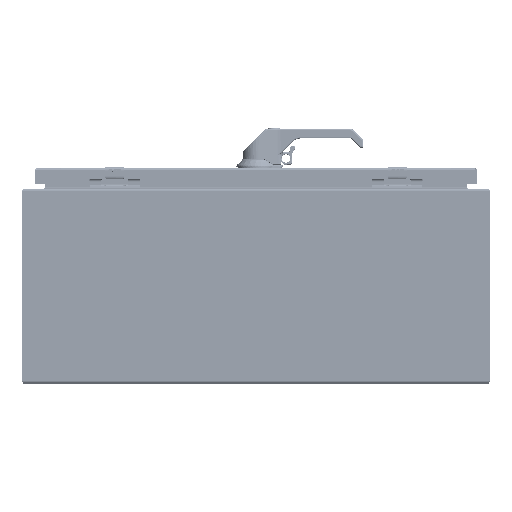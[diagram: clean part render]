
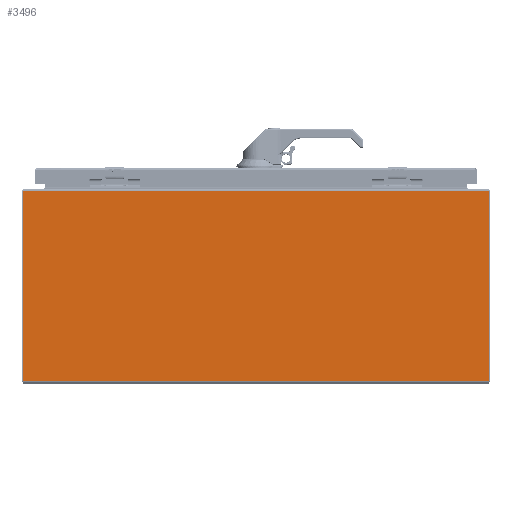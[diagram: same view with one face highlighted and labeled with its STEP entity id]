
A CAD part, left-side view. The second image highlights one B-rep face of the part: STEP entity #3496.
In plain terms, the highlighted planar face has unit normal (-1, 0, 0).
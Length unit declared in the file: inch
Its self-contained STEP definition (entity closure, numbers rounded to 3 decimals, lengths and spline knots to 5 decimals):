
#769=DIRECTION('',(0.,1.,0.));
#770=VECTOR('',#769,23.85);
#771=CARTESIAN_POINT('',(-21.,-11.925,-4.855));
#772=LINE('',#771,#770);
#938=DIRECTION('',(0.,0.,-1.));
#939=VECTOR('',#938,9.71);
#940=CARTESIAN_POINT('',(-21.,-11.925,4.855));
#941=LINE('',#940,#939);
#959=DIRECTION('',(0.,0.,-1.));
#960=VECTOR('',#959,9.71);
#961=CARTESIAN_POINT('',(-21.,11.925,4.855));
#962=LINE('',#961,#960);
#987=DIRECTION('',(0.,1.,0.));
#988=VECTOR('',#987,23.85);
#989=CARTESIAN_POINT('',(-21.,-11.925,4.855));
#990=LINE('',#989,#988);
#2302=CARTESIAN_POINT('',(-21.,-11.925,4.855));
#2303=CARTESIAN_POINT('',(-21.,-11.925,-4.855));
#2304=VERTEX_POINT('',#2302);
#2305=VERTEX_POINT('',#2303);
#2314=CARTESIAN_POINT('',(-21.,11.925,4.855));
#2315=CARTESIAN_POINT('',(-21.,11.925,-4.855));
#2316=VERTEX_POINT('',#2314);
#2317=VERTEX_POINT('',#2315);
#3483=CARTESIAN_POINT('',(-21.,-11.925,5.));
#3484=DIRECTION('',(-1.,0.,0.));
#3485=DIRECTION('',(0.,0.,-1.));
#3486=AXIS2_PLACEMENT_3D('',#3483,#3484,#3485);
#3487=PLANE('',#3486);
#3488=ORIENTED_EDGE('',*,*,#3474,.T.);
#3489=ORIENTED_EDGE('',*,*,#3357,.T.);
#3491=ORIENTED_EDGE('',*,*,#3490,.F.);
#3493=ORIENTED_EDGE('',*,*,#3492,.F.);
#3494=EDGE_LOOP('',(#3488,#3489,#3491,#3493));
#3495=FACE_OUTER_BOUND('',#3494,.F.);
#3357=EDGE_CURVE('',#2305,#2317,#772,.T.);
#3474=EDGE_CURVE('',#2304,#2305,#941,.T.);
#3490=EDGE_CURVE('',#2316,#2317,#962,.T.);
#3492=EDGE_CURVE('',#2304,#2316,#990,.T.);
#3496=ADVANCED_FACE('',(#3495),#3487,.T.);
